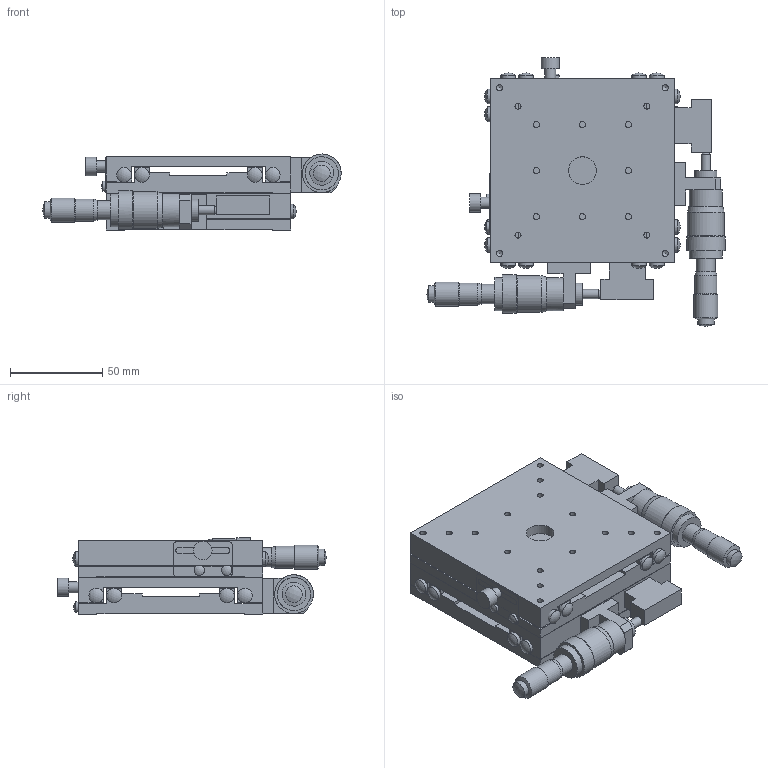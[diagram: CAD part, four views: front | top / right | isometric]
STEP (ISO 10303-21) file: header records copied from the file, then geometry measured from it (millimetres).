
FILE_DESCRIPTION( ( 'STEP AP214' ), '1' );
FILE_NAME( 'C:/Project/3D_B21-100DR-配布-070508.stp', '2007-05-08T10:42:55', ( ' ' ), ( ' ' ), 'XStep 1.0', ' ', ' ' );
FILE_SCHEMA( ( 'automotive_design' ) );
Length unit declared in the file: millimetre
Products named in the file (6): 1; 2; 3; 4; 5; 6
Bounding box: 162 x 145.8 x 41.3 mm (x, y, z)
Volume: 391326.3 mm3; surface area: 131507.6 mm2
Topology: 6 solids, 6 shells, 365 faces, 1001 edges, 640 vertices
Faces by surface type: plane 200, cylinder 112, cone 29, sphere 24
Full cylindrical faces by diameter (mm): 3 x2, 3.3 x32, 4.5 x8, 5 x4, 5.6 x4, 6 x2, 8 x24, 9 x2, 10 x2, 10.5 x4, 12 x4, 13 x2, 15 x2, 18 x4, 20 x2, 21 x2
Entity records: 13175 total; most frequent: DIRECTION 1764, CARTESIAN_POINT 1737, ORIENTED_EDGE 1532, EDGE_CURVE 766, AXIS2_PLACEMENT_3D 635, EDGE_LOOP 580, VERTEX_POINT 560, LINE 494
